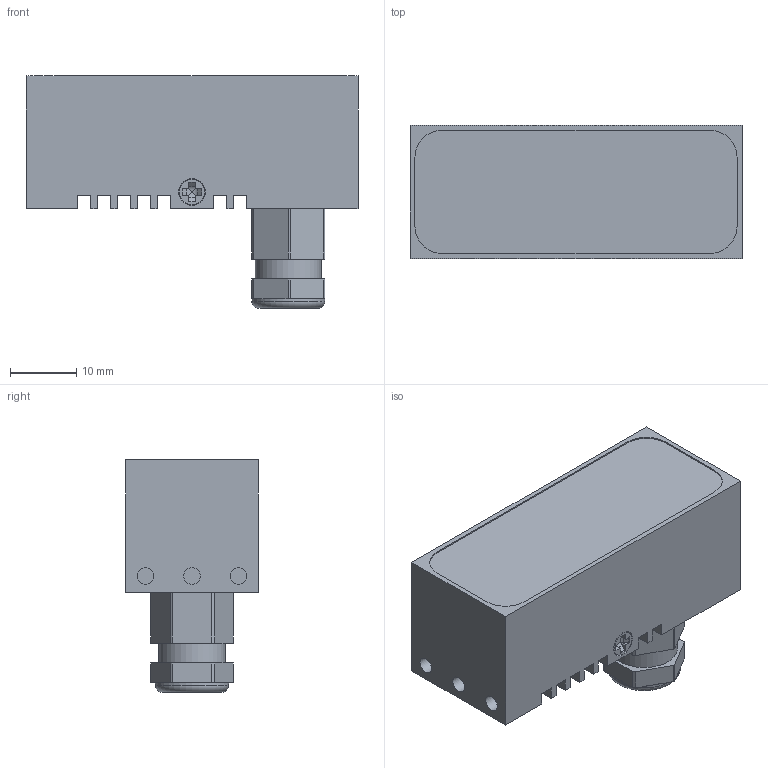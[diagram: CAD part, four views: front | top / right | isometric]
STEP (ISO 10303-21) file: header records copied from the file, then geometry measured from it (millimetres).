
FILE_DESCRIPTION( ( '' ), '1' );
FILE_NAME( 'L:/01_Produktserie LUMIMAX/LSB-Serie/LSB50/03_Konstruktion/LSB50 Download Katalog/LSB50.stp', '%{Zugriffsdatum}', ( 'Christian Koch' ), ( 'iiM AG' ), 'PSStep 13.0', 'Solid Edge', ' ' );
FILE_SCHEMA( ( 'AUTOMOTIVE_DESIGN { 1 0 10303 214 1 1 1 1 }' ) );
Length unit declared in the file: millimetre
Products named in the file (1): 1
Bounding box: 50 x 20 x 35 mm (x, y, z)
Volume: 20065.6 mm3; surface area: 6724.2 mm2
Topology: 1 solids, 7 shells, 203 faces, 516 edges, 340 vertices
Faces by surface type: plane 127, cylinder 61, cone 10, torus 3, bspline 2
Full cylindrical faces by diameter (mm): 1.454 x2, 1.567 x6, 2 x2, 2.2 x2, 2.459 x6, 5.5 x1, 10 x1, 11 x1
Entity records: 7476 total; most frequent: CARTESIAN_POINT 1100, DIRECTION 980, ORIENTED_EDGE 924, EDGE_CURVE 462, AXIS2_PLACEMENT_3D 336, VERTEX_POINT 328, LINE 308, VECTOR 308
